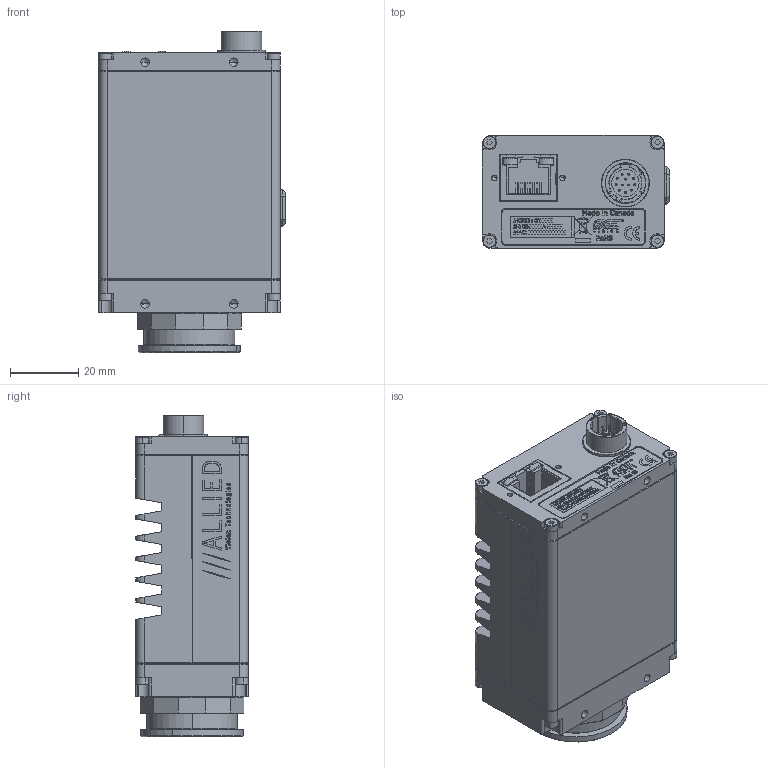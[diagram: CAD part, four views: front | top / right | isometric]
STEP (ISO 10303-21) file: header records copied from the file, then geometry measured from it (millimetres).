
FILE_DESCRIPTION (( 'STEP AP214' ), '1' );
FILE_NAME ('GT3300C C-MOUNT CAMERAS ASSY_final.STEP', '2014-01-03T17:48:38', ( 'Admin' ), ( '' ), 'SwSTEP 2.0', 'SolidWorks 2013', '' );
FILE_SCHEMA (( 'AUTOMOTIVE_DESIGN' ));
Length unit declared in the file: millimetre
Products named in the file (27): GT BODY ASSY_100192A-GT BODY ASSY FAST; KAI-08050 WINDOW; GT TOP COVER_110161A-GT TOP COVER LONG; 110054B-A IR FILTER SUPPORT; 110103A-GX CCD GASKET; 110162A-GT FRONT PLATE LF; 140061-SCREW SKT CAP M2x8 SS; GT FRONT ASSY KODAK LF_100205B-GT3300C FRONT ASSY C-MOUNT; LABEL PRINTOUT; 260034-HIROSE HR10A-10R-12PB; 440002-IR CUT FILTER 22MM DIA; CN3_2; 200130A-GT CONTROL FAST; 110031A-B EC-CCD LOCKING RING; 260034-HIROSE HR10A-10R-12PB NUT; 100191A-GT BACK ASSY; KAI-08050 BODY; 220178-KODAK KAI-08050-CBA; CN4; 140004-LOW COST C-MOUNT CAP; 740144A-GT SERIES LABEL; GT3300C C-MOUNT CAMERAS ASSY_final; 260034-HIROSE HR10A-10R-12PB WASHER; 110003AC-CV CMOUNT RING; 110153A-GT BACK PLATE; 100097B - IR FILTER ASSEMBLY 0.75 INCH; GT BOT COVER_110160A-GT BOT COVER LONG
Assembly tree (33 placements, depth 4):
  GT3300C C-MOUNT CAMERAS ASSY_final
    140061-SCREW SKT CAP M2x8 SS  x4
    GT FRONT ASSY KODAK LF_100205B-GT3300C FRONT ASSY C-MOUNT
      220178-KODAK KAI-08050-CBA
        KAI-08050 WINDOW
        KAI-08050 BODY
      100097B - IR FILTER ASSEMBLY 0.75 INCH
        440002-IR CUT FILTER 22MM DIA
        110054B-A IR FILTER SUPPORT
      140004-LOW COST C-MOUNT CAP
      110162A-GT FRONT PLATE LF
      110003AC-CV CMOUNT RING
      110031A-B EC-CCD LOCKING RING
      110103A-GX CCD GASKET
    GT BODY ASSY_100192A-GT BODY ASSY FAST
      GT BOT COVER_110160A-GT BOT COVER LONG
      140061-SCREW SKT CAP M2x8 SS  x4
      200130A-GT CONTROL FAST
        CN4
        CN3_2
      100191A-GT BACK ASSY
        260034-HIROSE HR10A-10R-12PB
        260034-HIROSE HR10A-10R-12PB NUT
        260034-HIROSE HR10A-10R-12PB WASHER
        110153A-GT BACK PLATE
      GT TOP COVER_110161A-GT TOP COVER LONG
    740144A-GT SERIES LABEL
    LABEL PRINTOUT
Bounding box: 54.83 x 33.02 x 94.29 mm (x, y, z)
Volume: 69757 mm3; surface area: 60283 mm2
Topology: 43 solids, 43 shells, 3829 faces, 9940 edges, 6452 vertices
Faces by surface type: plane 2189, cylinder 717, bspline 641, cone 282
Entity records: 137028 total; most frequent: CARTESIAN_POINT 48336, ORIENTED_EDGE 19088, DIRECTION 16104, EDGE_CURVE 9544, LINE 6664, VECTOR 6664, VERTEX_POINT 6270, AXIS2_PLACEMENT_3D 4720
